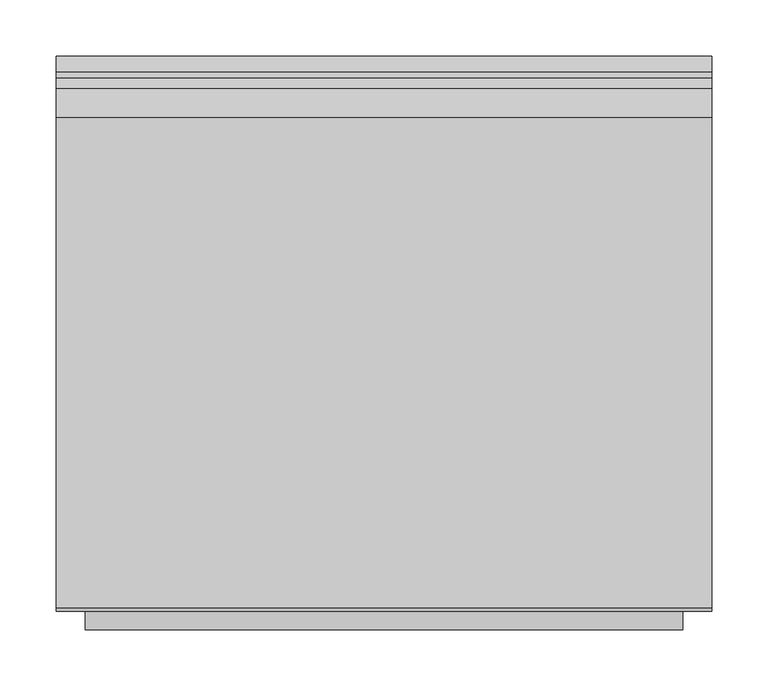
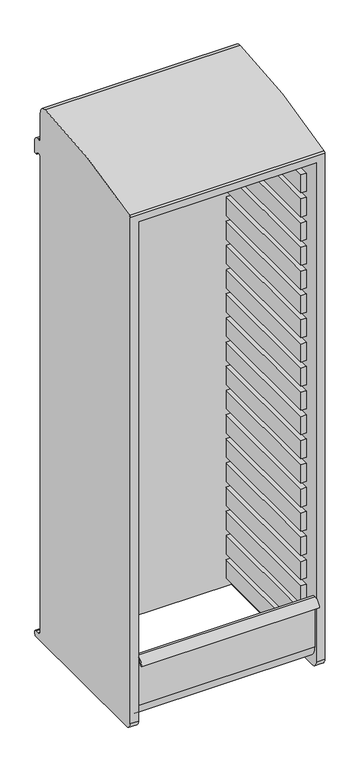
"""IFC4 building model written with IfcOpenShell, lengths in millimetres: furniture geometry."""

from ifc_helpers import new_model, si_unit, point, frame, frame_2d, origin, place, context, project, spatial, polyline, circle_curve, trimmed, segment, composite_curve, outline, extrude, source, transform, mapped, element, save
from ifc_brep_helpers import plane_surface, cylinder_surface, revolved_surface, advanced_brep


def furniture_45599920(model_context):
    return source(origin(), model_context, "Body", "SolidModel", [
        extrude(outline(polyline([(-249.2375, -195.2625), (-265.1125, -195.2625), (-265.1125, 192.0875), (-249.2375, 192.0875), (-249.2375, -195.2625)])), frame((0.0, 0.0, 552.45), z_axis=(0.0, 0.0, 1.0), x_axis=(1.0, 0.0, 0.0)), (0.0, 0.0, 1.0), 57.15),
        extrude(outline(polyline([(265.1125, -195.2625), (249.2375, -195.2625), (249.2375, 192.0875), (265.1125, 192.0875), (265.1125, -195.2625)])), frame((0.0, 0.0, 552.45), z_axis=(0.0, 0.0, 1.0), x_axis=(1.0, 0.0, 0.0)), (0.0, 0.0, 1.0), 57.15),
        extrude(outline(polyline([(-249.2375, -195.2625), (-265.1125, -195.2625), (-265.1125, 192.0875), (-249.2375, 192.0875), (-249.2375, -195.2625)])), frame((0.0, 0.0, 476.25), z_axis=(0.0, 0.0, 1.0), x_axis=(1.0, 0.0, 0.0)), (0.0, 0.0, 1.0), 57.15),
        extrude(outline(polyline([(265.1125, -195.2625), (249.2375, -195.2625), (249.2375, 192.0875), (265.1125, 192.0875), (265.1125, -195.2625)])), frame((0.0, 0.0, 476.25), z_axis=(0.0, 0.0, 1.0), x_axis=(1.0, 0.0, 0.0)), (0.0, 0.0, 1.0), 57.15),
        extrude(outline(polyline([(-249.2375, -195.2625), (-265.1125, -195.2625), (-265.1125, 192.0875), (-249.2375, 192.0875), (-249.2375, -195.2625)])), frame((0.0, 0.0, 400.05), z_axis=(0.0, 0.0, 1.0), x_axis=(1.0, 0.0, 0.0)), (0.0, 0.0, 1.0), 57.15),
        extrude(outline(polyline([(265.1125, -195.2625), (249.2375, -195.2625), (249.2375, 192.0875), (265.1125, 192.0875), (265.1125, -195.2625)])), frame((0.0, 0.0, 400.05), z_axis=(0.0, 0.0, 1.0), x_axis=(1.0, 0.0, 0.0)), (0.0, 0.0, 1.0), 57.15),
        extrude(outline(polyline([(-249.2375, -195.2625), (-265.1125, -195.2625), (-265.1125, 192.0875), (-249.2375, 192.0875), (-249.2375, -195.2625)])), frame((0.0, 0.0, 323.85), z_axis=(0.0, 0.0, 1.0), x_axis=(1.0, 0.0, 0.0)), (0.0, 0.0, 1.0), 57.15),
        extrude(outline(polyline([(265.1125, -195.2625), (249.2375, -195.2625), (249.2375, 192.0875), (265.1125, 192.0875), (265.1125, -195.2625)])), frame((0.0, 0.0, 323.85), z_axis=(0.0, 0.0, 1.0), x_axis=(1.0, 0.0, 0.0)), (0.0, 0.0, 1.0), 57.15),
        extrude(outline(polyline([(-249.2375, -195.2625), (-265.1125, -195.2625), (-265.1125, 192.0875), (-249.2375, 192.0875), (-249.2375, -195.2625)])), frame((0.0, 0.0, 857.25), z_axis=(0.0, 0.0, 1.0), x_axis=(1.0, 0.0, 0.0)), (0.0, 0.0, 1.0), 57.15),
        extrude(outline(polyline([(265.1125, -195.2625), (249.2375, -195.2625), (249.2375, 192.0875), (265.1125, 192.0875), (265.1125, -195.2625)])), frame((0.0, 0.0, 857.25), z_axis=(0.0, 0.0, 1.0), x_axis=(1.0, 0.0, 0.0)), (0.0, 0.0, 1.0), 57.15),
        extrude(outline(polyline([(-249.2375, -195.2625), (-265.1125, -195.2625), (-265.1125, 192.0875), (-249.2375, 192.0875), (-249.2375, -195.2625)])), frame((0.0, 0.0, 781.05), z_axis=(0.0, 0.0, 1.0), x_axis=(1.0, 0.0, 0.0)), (0.0, 0.0, 1.0), 57.15),
        extrude(outline(polyline([(265.1125, -195.2625), (249.2375, -195.2625), (249.2375, 192.0875), (265.1125, 192.0875), (265.1125, -195.2625)])), frame((0.0, 0.0, 781.05), z_axis=(0.0, 0.0, 1.0), x_axis=(1.0, 0.0, 0.0)), (0.0, 0.0, 1.0), 57.15),
        extrude(outline(polyline([(-249.2375, -195.2625), (-265.1125, -195.2625), (-265.1125, 192.0875), (-249.2375, 192.0875), (-249.2375, -195.2625)])), frame((0.0, 0.0, 704.85), z_axis=(0.0, 0.0, 1.0), x_axis=(1.0, 0.0, 0.0)), (0.0, 0.0, 1.0), 57.15),
        extrude(outline(polyline([(265.1125, -195.2625), (249.2375, -195.2625), (249.2375, 192.0875), (265.1125, 192.0875), (265.1125, -195.2625)])), frame((0.0, 0.0, 704.85), z_axis=(0.0, 0.0, 1.0), x_axis=(1.0, 0.0, 0.0)), (0.0, 0.0, 1.0), 57.15),
        extrude(outline(polyline([(-249.2375, -195.2625), (-265.1125, -195.2625), (-265.1125, 192.0875), (-249.2375, 192.0875), (-249.2375, -195.2625)])), frame((0.0, 0.0, 628.65), z_axis=(0.0, 0.0, 1.0), x_axis=(1.0, 0.0, 0.0)), (0.0, 0.0, 1.0), 57.15),
        extrude(outline(polyline([(265.1125, -195.2625), (249.2375, -195.2625), (249.2375, 192.0875), (265.1125, 192.0875), (265.1125, -195.2625)])), frame((0.0, 0.0, 628.65), z_axis=(0.0, 0.0, 1.0), x_axis=(1.0, 0.0, 0.0)), (0.0, 0.0, 1.0), 57.15),
        extrude(outline(polyline([(-249.2375, -195.2625), (-265.1125, -195.2625), (-265.1125, 192.0875), (-249.2375, 192.0875), (-249.2375, -195.2625)])), frame((0.0, 0.0, 1162.05), z_axis=(0.0, 0.0, 1.0), x_axis=(1.0, 0.0, 0.0)), (0.0, 0.0, 1.0), 57.15),
        extrude(outline(polyline([(265.1125, -195.2625), (249.2375, -195.2625), (249.2375, 192.0875), (265.1125, 192.0875), (265.1125, -195.2625)])), frame((0.0, 0.0, 1162.05), z_axis=(0.0, 0.0, 1.0), x_axis=(1.0, 0.0, 0.0)), (0.0, 0.0, 1.0), 57.15),
        extrude(outline(polyline([(-249.2375, -195.2625), (-265.1125, -195.2625), (-265.1125, 192.0875), (-249.2375, 192.0875), (-249.2375, -195.2625)])), frame((0.0, 0.0, 1085.85), z_axis=(0.0, 0.0, 1.0), x_axis=(1.0, 0.0, 0.0)), (0.0, 0.0, 1.0), 57.15),
        extrude(outline(polyline([(265.1125, -195.2625), (249.2375, -195.2625), (249.2375, 192.0875), (265.1125, 192.0875), (265.1125, -195.2625)])), frame((0.0, 0.0, 1085.85), z_axis=(0.0, 0.0, 1.0), x_axis=(1.0, 0.0, 0.0)), (0.0, 0.0, 1.0), 57.15),
        extrude(outline(polyline([(-249.2375, -195.2625), (-265.1125, -195.2625), (-265.1125, 192.0875), (-249.2375, 192.0875), (-249.2375, -195.2625)])), frame((0.0, 0.0, 1009.65), z_axis=(0.0, 0.0, 1.0), x_axis=(1.0, 0.0, 0.0)), (0.0, 0.0, 1.0), 57.15),
        extrude(outline(polyline([(265.1125, -195.2625), (249.2375, -195.2625), (249.2375, 192.0875), (265.1125, 192.0875), (265.1125, -195.2625)])), frame((0.0, 0.0, 1009.65), z_axis=(0.0, 0.0, 1.0), x_axis=(1.0, 0.0, 0.0)), (0.0, 0.0, 1.0), 57.15),
        extrude(outline(polyline([(-249.2375, -195.2625), (-265.1125, -195.2625), (-265.1125, 192.0875), (-249.2375, 192.0875), (-249.2375, -195.2625)])), frame((0.0, 0.0, 933.45), z_axis=(0.0, 0.0, 1.0), x_axis=(1.0, 0.0, 0.0)), (0.0, 0.0, 1.0), 57.15),
        extrude(outline(polyline([(265.1125, -195.2625), (249.2375, -195.2625), (249.2375, 192.0875), (265.1125, 192.0875), (265.1125, -195.2625)])), frame((0.0, 0.0, 933.45), z_axis=(0.0, 0.0, 1.0), x_axis=(1.0, 0.0, 0.0)), (0.0, 0.0, 1.0), 57.15),
        extrude(outline(polyline([(-249.2375, -195.2625), (-265.1125, -195.2625), (-265.1125, 192.0875), (-249.2375, 192.0875), (-249.2375, -195.2625)])), frame((0.0, 0.0, 1466.85), z_axis=(0.0, 0.0, 1.0), x_axis=(1.0, 0.0, 0.0)), (0.0, 0.0, 1.0), 57.15),
        extrude(outline(polyline([(265.1125, -195.2625), (249.2375, -195.2625), (249.2375, 192.0875), (265.1125, 192.0875), (265.1125, -195.2625)])), frame((0.0, 0.0, 1466.85), z_axis=(0.0, 0.0, 1.0), x_axis=(1.0, 0.0, 0.0)), (0.0, 0.0, 1.0), 57.15),
        extrude(outline(polyline([(-249.2375, -195.2625), (-265.1125, -195.2625), (-265.1125, 192.0875), (-249.2375, 192.0875), (-249.2375, -195.2625)])), frame((0.0, 0.0, 1390.65), z_axis=(0.0, 0.0, 1.0), x_axis=(1.0, 0.0, 0.0)), (0.0, 0.0, 1.0), 57.15),
        extrude(outline(polyline([(265.1125, -195.2625), (249.2375, -195.2625), (249.2375, 192.0875), (265.1125, 192.0875), (265.1125, -195.2625)])), frame((0.0, 0.0, 1390.65), z_axis=(0.0, 0.0, 1.0), x_axis=(1.0, 0.0, 0.0)), (0.0, 0.0, 1.0), 57.15),
        extrude(outline(polyline([(-249.2375, -195.2625), (-265.1125, -195.2625), (-265.1125, 192.0875), (-249.2375, 192.0875), (-249.2375, -195.2625)])), frame((0.0, 0.0, 1314.45), z_axis=(0.0, 0.0, 1.0), x_axis=(1.0, 0.0, 0.0)), (0.0, 0.0, 1.0), 57.15),
        extrude(outline(polyline([(265.1125, -195.2625), (249.2375, -195.2625), (249.2375, 192.0875), (265.1125, 192.0875), (265.1125, -195.2625)])), frame((0.0, 0.0, 1314.45), z_axis=(0.0, 0.0, 1.0), x_axis=(1.0, 0.0, 0.0)), (0.0, 0.0, 1.0), 57.15),
        extrude(outline(polyline([(-249.2375, -195.2625), (-265.1125, -195.2625), (-265.1125, 192.0875), (-249.2375, 192.0875), (-249.2375, -195.2625)])), frame((0.0, 0.0, 1238.25), z_axis=(0.0, 0.0, 1.0), x_axis=(1.0, 0.0, 0.0)), (0.0, 0.0, 1.0), 57.15),
        extrude(outline(polyline([(265.1125, -195.2625), (249.2375, -195.2625), (249.2375, 192.0875), (265.1125, 192.0875), (265.1125, -195.2625)])), frame((0.0, 0.0, 1238.25), z_axis=(0.0, 0.0, 1.0), x_axis=(1.0, 0.0, 0.0)), (0.0, 0.0, 1.0), 57.15),
        extrude(outline(polyline([(-249.2375, -195.2625), (-265.1125, -195.2625), (-265.1125, 192.0875), (-249.2375, 192.0875), (-249.2375, -195.2625)])), frame((0.0, 0.0, 1771.65), z_axis=(0.0, 0.0, 1.0), x_axis=(1.0, 0.0, 0.0)), (0.0, 0.0, 1.0), 57.15),
        extrude(outline(polyline([(265.1125, -195.2625), (249.2375, -195.2625), (249.2375, 192.0875), (265.1125, 192.0875), (265.1125, -195.2625)])), frame((0.0, 0.0, 1771.65), z_axis=(0.0, 0.0, 1.0), x_axis=(1.0, 0.0, 0.0)), (0.0, 0.0, 1.0), 57.15),
        extrude(outline(polyline([(-249.2375, -195.2625), (-265.1125, -195.2625), (-265.1125, 192.0875), (-249.2375, 192.0875), (-249.2375, -195.2625)])), frame((0.0, 0.0, 1695.45), z_axis=(0.0, 0.0, 1.0), x_axis=(1.0, 0.0, 0.0)), (0.0, 0.0, 1.0), 57.15),
        extrude(outline(polyline([(265.1125, -195.2625), (249.2375, -195.2625), (249.2375, 192.0875), (265.1125, 192.0875), (265.1125, -195.2625)])), frame((0.0, 0.0, 1695.45), z_axis=(0.0, 0.0, 1.0), x_axis=(1.0, 0.0, 0.0)), (0.0, 0.0, 1.0), 57.15),
        extrude(outline(polyline([(-249.2375, -195.2625), (-265.1125, -195.2625), (-265.1125, 192.0875), (-249.2375, 192.0875), (-249.2375, -195.2625)])), frame((0.0, 0.0, 1619.25), z_axis=(0.0, 0.0, 1.0), x_axis=(1.0, 0.0, 0.0)), (0.0, 0.0, 1.0), 57.15),
        extrude(outline(polyline([(265.1125, -195.2625), (249.2375, -195.2625), (249.2375, 192.0875), (265.1125, 192.0875), (265.1125, -195.2625)])), frame((0.0, 0.0, 1619.25), z_axis=(0.0, 0.0, 1.0), x_axis=(1.0, 0.0, 0.0)), (0.0, 0.0, 1.0), 57.15),
        extrude(outline(polyline([(-249.2375, -195.2625), (-265.1125, -195.2625), (-265.1125, 192.0875), (-249.2375, 192.0875), (-249.2375, -195.2625)])), frame((0.0, 0.0, 1543.05), z_axis=(0.0, 0.0, 1.0), x_axis=(1.0, 0.0, 0.0)), (0.0, 0.0, 1.0), 57.15),
        extrude(outline(polyline([(265.1125, -195.2625), (249.2375, -195.2625), (249.2375, 192.0875), (265.1125, 192.0875), (265.1125, -195.2625)])), frame((0.0, 0.0, 1543.05), z_axis=(0.0, 0.0, 1.0), x_axis=(1.0, 0.0, 0.0)), (0.0, 0.0, 1.0), 57.15),
        advanced_brep(
        [(290.5125, -246.0625, 317.5), (290.5125, -227.0125, 298.45), (290.5125, 239.7125, 298.45), (290.5125, 246.0625, 304.8), (290.5125, 246.0625, 311.15), (290.5125, 239.7125, 317.5), (290.5125, 228.6, 317.5), (290.5125, 217.4875, 328.6125), (290.5125, 217.4875, 1820.4282764), (290.5125, 236.7359375, 1820.4282764), (290.5125, 246.0625, 1820.4282764), (290.5125, 246.0625, 1858.8967496), (290.5125, 232.4695312, 1872.4897183), (290.5125, 227.1117187, 1872.4897183), (290.5125, 217.4875, 1882.1139371), (290.5125, 217.4875, 1962.15), (290.5125, 192.0875, 1987.55), (290.5125, -242.8127937, 1918.698234), (290.5125, -246.0625, 1913.4436651), (265.1125, -246.0625, 317.5), (265.1125, -227.0125, 298.45), (-290.5125, -246.0625, 317.5), (-290.5125, -227.0125, 298.45), (-265.1125, -227.0125, 298.45), (-265.1125, -246.0625, 317.5), (265.1125, 192.0875, 298.45), (-265.1125, 192.0875, 298.45), (-290.5125, 239.7125, 298.45), (-290.5125, 246.0625, 304.8), (-290.5125, 246.0625, 311.15), (-290.5125, 239.7125, 317.5), (-290.5125, 228.6, 317.5), (-290.5125, 217.4875, 328.6125), (-290.5125, 217.4875, 1820.4282764), (-290.5125, -246.0625, 1913.4436651), (-265.1125, -246.0625, 1892.3), (265.1125, -246.0625, 1892.3), (-290.5125, -242.8127937, 1918.698234), (-290.5125, 192.0875, 1987.55), (-290.5125, 217.4875, 1962.15), (-290.5125, 217.4875, 1882.1139371), (-290.5125, 227.1117187, 1872.4897183), (-290.5125, 232.4695312, 1872.4897183), (-290.5125, 246.0625, 1858.8967496), (-290.5125, 246.0625, 1820.4282764), (-290.5125, 236.7359375, 1820.4282764), (265.1125, 192.0875, 1956.3783426), (-265.1125, 192.0875, 1956.3783426)],
        [
            (0, 1, circle_curve(frame((290.5125, -227.0125, 317.5), z_axis=(1.0, 0.0, 0.0), x_axis=(0.0, 1.0, 0.0)), 19.05)),
            (1, 2),
            (2, 3, circle_curve(frame((290.5125, 239.7125, 304.8), z_axis=(1.0, 0.0, 0.0), x_axis=(0.0, 1.0, 0.0)), 6.35)),
            (3, 4),
            (4, 5, circle_curve(frame((290.5125, 239.7125, 311.15), z_axis=(1.0, 0.0, 0.0), x_axis=(0.0, 1.0, 0.0)), 6.35)),
            (5, 6),
            (6, 7, circle_curve(frame((290.5125, 228.6, 328.6125), z_axis=(-1.0, 0.0, 0.0), x_axis=(0.0, 1.0, 0.0)), 11.1125)),
            (7, 8),
            (8, 9, circle_curve(frame((290.5125, 227.1117187, 1820.4282764), z_axis=(-1.0, 0.0, 0.0), x_axis=(0.0, 1.0, 0.0)), 9.6242188)),
            (9, 10),
            (10, 11),
            (11, 12, circle_curve(frame((290.5125, 232.4695312, 1858.8967496), z_axis=(1.0, 0.0, 0.0), x_axis=(0.0, 1.0, 0.0)), 13.5929687)),
            (12, 13),
            (13, 14, circle_curve(frame((290.5125, 227.1117187, 1882.1139371), z_axis=(-1.0, 0.0, 0.0), x_axis=(0.0, 1.0, 0.0)), 9.6242187)),
            (14, 15),
            (15, 16, circle_curve(frame((290.5125, 192.0875, 1962.15), z_axis=(1.0, 0.0, 0.0), x_axis=(0.0, 1.0, 0.0)), 25.4)),
            (16, 17, circle_curve(frame((290.5125, 219.0245932, 409.4588105), z_axis=(1.0, 0.0, 0.0), x_axis=(0.0, 1.0, 0.0)), 1578.321073)),
            (17, 18, circle_curve(frame((290.5125, -240.1894945, 1913.4436651), z_axis=(1.0, 0.0, 0.0), x_axis=(0.0, 1.0, 0.0)), 5.8730055)),
            (18, 0),
            (0, 19),
            (19, 20, circle_curve(frame((265.1125, -227.0125, 317.5), z_axis=(1.0, 0.0, 0.0), x_axis=(0.0, 1.0, 0.0)), 19.05)),
            (20, 1),
            (21, 22, circle_curve(frame((-290.5125, -227.0125, 317.5), z_axis=(1.0, 0.0, 0.0), x_axis=(0.0, 1.0, 0.0)), 19.05)),
            (22, 23),
            (23, 24, circle_curve(frame((-265.1125, -227.0125, 317.5), z_axis=(-1.0, 0.0, 0.0), x_axis=(0.0, 1.0, 0.0)), 19.05)),
            (24, 21),
            (20, 25),
            (25, 26),
            (26, 23),
            (22, 27),
            (27, 2),
            (27, 28, circle_curve(frame((-290.5125, 239.7125, 304.8), z_axis=(1.0, 0.0, 0.0), x_axis=(0.0, 1.0, 0.0)), 6.35)),
            (28, 3),
            (28, 29),
            (29, 4),
            (29, 30, circle_curve(frame((-290.5125, 239.7125, 311.15), z_axis=(1.0, 0.0, 0.0), x_axis=(0.0, 1.0, 0.0)), 6.35)),
            (30, 5),
            (30, 31),
            (31, 6),
            (31, 32, circle_curve(frame((-290.5125, 228.6, 328.6125), z_axis=(-1.0, 0.0, 0.0), x_axis=(0.0, 1.0, 0.0)), 11.1125)),
            (32, 7),
            (32, 33),
            (33, 8),
            (18, 34),
            (34, 21),
            (24, 35),
            (35, 36),
            (36, 19),
            (34, 37, circle_curve(frame((-290.5125, -240.1894945, 1913.4436651), z_axis=(-1.0, 0.0, 0.0), x_axis=(0.0, 1.0, 0.0)), 5.8730055)),
            (37, 38, circle_curve(frame((-290.5125, 219.0245932, 409.4588105), z_axis=(-1.0, 0.0, 0.0), x_axis=(0.0, 1.0, 0.0)), 1578.321073)),
            (38, 39, circle_curve(frame((-290.5125, 192.0875, 1962.15), z_axis=(-1.0, 0.0, 0.0), x_axis=(0.0, 1.0, 0.0)), 25.4)),
            (39, 40),
            (40, 41, circle_curve(frame((-290.5125, 227.1117187, 1882.1139371), z_axis=(1.0, 0.0, 0.0), x_axis=(0.0, 1.0, 0.0)), 9.6242188)),
            (41, 42),
            (42, 43, circle_curve(frame((-290.5125, 232.4695312, 1858.8967496), z_axis=(-1.0, 0.0, 0.0), x_axis=(0.0, 1.0, 0.0)), 13.5929688)),
            (43, 44),
            (44, 45),
            (45, 33, circle_curve(frame((-290.5125, 227.1117187, 1820.4282764), z_axis=(1.0, 0.0, 0.0), x_axis=(0.0, 1.0, 0.0)), 9.6242188)),
            (36, 46),
            (46, 25),
            (26, 47),
            (47, 35),
            (46, 47),
            (45, 9),
            (44, 10),
            (43, 11),
            (42, 12),
            (41, 13),
            (40, 14),
            (39, 15),
            (38, 16),
            (37, 17),
        ],
        [
            plane_surface(frame((290.5125, -207.9625, 317.5), z_axis=(1.0, 0.0, 0.0), x_axis=(0.0, 0.0, 1.0))),
            cylinder_surface(frame((-290.5125, -227.0125, 317.5), z_axis=(1.0, 0.0, 0.0), x_axis=(0.0, 1.0, 0.0)), 19.05),
            plane_surface(frame((290.5125, -227.0125, 298.45), z_axis=(0.0, 0.0, -1.0), x_axis=(-1.0, 0.0, 0.0))),
            cylinder_surface(frame((-290.5125, 239.7125, 304.8), z_axis=(1.0, 0.0, 0.0), x_axis=(0.0, 1.0, 0.0)), 6.35),
            plane_surface(frame((290.5125, 246.0625, 304.8), z_axis=(0.0, 1.0, 0.0), x_axis=(-1.0, 0.0, 0.0))),
            cylinder_surface(frame((-290.5125, 239.7125, 311.15), z_axis=(1.0, 0.0, 0.0), x_axis=(0.0, 1.0, 0.0)), 6.35),
            plane_surface(frame((290.5125, 239.7125, 317.5), z_axis=(0.0, 0.0, 1.0), x_axis=(-1.0, 0.0, 0.0))),
            revolved_surface(polyline([(-290.5125, 239.7125, 328.6125), (290.5125, 239.7125, 328.6125)]), (-290.5125, 228.6, 328.6125), (-1.0, 0.0, 0.0)),
            plane_surface(frame((290.5125, 217.4875, 328.6125), z_axis=(0.0, 1.0, 0.0), x_axis=(-1.0, 0.0, 0.0))),
            plane_surface(frame((290.5125, -246.0625, 1913.4436651), z_axis=(0.0, -1.0, -1.1655566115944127e-12), x_axis=(-1.0, 0.0, 0.0))),
            plane_surface(frame((-290.5125, -207.9625, 317.5), z_axis=(-1.0, 0.0, 0.0), x_axis=(0.0, 0.0, -1.0))),
            plane_surface(frame((265.1125, 192.0875, 298.45), z_axis=(-1.0, 0.0, 0.0), x_axis=(0.0, 0.0, 1.0))),
            plane_surface(frame((-265.1125, 192.0875, 298.45), z_axis=(1.0, 0.0, 0.0), x_axis=(0.0, 0.0, -1.0))),
            plane_surface(frame((265.1125, 192.0875, 298.45), z_axis=(0.0, -1.0, 0.0), x_axis=(-1.0, 0.0, 0.0))),
            revolved_surface(polyline([(-290.5125, 236.7359375, 1820.4282764), (290.5125, 236.7359375, 1820.4282764)]), (-290.5125, 227.1117187, 1820.4282764), (-1.0, 0.0, 0.0)),
            plane_surface(frame((290.5125, 236.7359375, 1820.4282764), z_axis=(0.0, 0.0, -1.0), x_axis=(-1.0, 0.0, 0.0))),
            plane_surface(frame((290.5125, 246.0625, 1820.4282764), z_axis=(0.0, 1.0, 0.0), x_axis=(-1.0, 0.0, 0.0))),
            cylinder_surface(frame((-290.5125, 232.4695312, 1858.8967496), z_axis=(1.0, 0.0, 0.0), x_axis=(0.0, 1.0, 0.0)), 13.5929687),
            plane_surface(frame((290.5125, 232.4695312, 1872.4897183), z_axis=(0.0, 0.0, 1.0), x_axis=(-1.0, 0.0, 0.0))),
            revolved_surface(polyline([(-290.5125, 236.7359375, 1882.1139371), (290.5125, 236.7359375, 1882.1139371)]), (-290.5125, 227.1117187, 1882.1139371), (-1.0, 0.0, 0.0)),
            plane_surface(frame((290.5125, 217.4875, 1882.1139371), z_axis=(0.0, 1.0, 0.0), x_axis=(-1.0, 0.0, 0.0))),
            cylinder_surface(frame((-290.5125, 192.0875, 1962.15), z_axis=(1.0, 0.0, 0.0), x_axis=(0.0, 1.0, 0.0)), 25.4),
            cylinder_surface(frame((-290.5125, 219.0245932, 409.4588105), z_axis=(1.0, 0.0, 0.0), x_axis=(0.0, 1.0, 0.0)), 1578.321073),
            cylinder_surface(frame((-290.5125, -240.1894945, 1913.4436651), z_axis=(1.0, 0.0, 0.0), x_axis=(0.0, 1.0, 0.0)), 5.8730055),
            plane_surface(frame((265.1125, 192.0875, 1956.3783426), z_axis=(0.0, 0.14470815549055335, -0.9894743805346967), x_axis=(-1.0, 0.0, 0.0))),
        ],
        [
            (0, [[1, 2, 3, 4, 5, 6, 7, 8, 9, 10, 11, 12, 13, 14, 15, 16, 17, 18, 19]]),
            (1, [[-1, 20, 21, 22]]),
            (1, [[23, 24, 25, 26]]),
            (2, [[-2, -22, 27, 28, 29, -24, 30, 31]]),
            (3, [[-3, -31, 32, 33]]),
            (4, [[-4, -33, 34, 35]]),
            (5, [[-5, -35, 36, 37]]),
            (6, [[-6, -37, 38, 39]]),
            (7, [[-7, -39, 40, 41]]),
            (8, [[-8, -41, 42, 43]]),
            (9, [[-19, 44, 45, -26, 46, 47, 48, -20]]),
            (10, [[-45, 49, 50, 51, 52, 53, 54, 55, 56, 57, 58, -42, -40, -38, -36, -34, -32, -30, -23]]),
            (11, [[59, 60, -27, -21, -48]]),
            (12, [[61, 62, -46, -25, -29]]),
            (13, [[-60, 63, -61, -28]]),
            (14, [[-9, -43, -58, 64]]),
            (15, [[-10, -64, -57, 65]]),
            (16, [[-11, -65, -56, 66]]),
            (17, [[-12, -66, -55, 67]]),
            (18, [[-13, -67, -54, 68]]),
            (19, [[-14, -68, -53, 69]]),
            (20, [[-15, -69, -52, 70]]),
            (21, [[-16, -70, -51, 71]]),
            (22, [[-17, -71, -50, 72]]),
            (23, [[-18, -72, -49, -44]]),
            (24, [[-59, -47, -62, -63]]),
        ],
    ),
        extrude(outline(composite_curve([segment(trimmed(circle_curve(frame_2d((-195.2625, 361.95)), 38.1), [point((-233.3625, 361.95))], [point((-195.2625, 323.85))], True, "CARTESIAN"), True, "CONTINUOUS"), segment(polyline([(-195.2625, 323.85), (0.0, 323.85), (0.0, 317.5), (-195.2625, 317.5)]), True, "CONTINUOUS"), segment(trimmed(circle_curve(frame_2d((-195.2625, 361.95)), 44.45), [point((-195.2625, 317.5))], [point((-239.7125, 361.95))], False, "CARTESIAN"), True, "CONTINUOUS"), segment(polyline([(-239.7125, 361.95), (-239.7125, 514.35)]), True, "CONTINUOUS"), segment(trimmed(circle_curve(frame_2d((-239.7125, 498.475)), 15.875), [point((-239.7125, 514.35))], [point((-255.5875, 498.475))], True, "CARTESIAN"), True, "CONTINUOUS"), segment(polyline([(-255.5875, 498.475), (-261.9375, 498.475)]), True, "CONTINUOUS"), segment(trimmed(circle_curve(frame_2d((-239.7125, 498.475)), 22.225), [point((-261.9375, 498.475))], [point((-239.7125, 520.7))], False, "CARTESIAN"), True, "CONTINUOUS"), segment(polyline([(-239.7125, 520.7), (-233.3625, 520.7), (-233.3625, 361.95)]), True, "CONTINUOUS")], self_intersect=False)), frame((-265.1125, 0.0, 0.0), z_axis=(1.0, 0.0, 0.0), x_axis=(0.0, 1.0, 0.0)), (0.0, 0.0, 1.0), 530.225),
    ])


if __name__ == "__main__":
    model = new_model("IFC4")
    model_context = context("Model", 3, world=origin())
    ifc_project = project(units=[si_unit("LENGTHUNIT", "METRE", prefix="MILLI")], contexts=[model_context])
    site = spatial("IfcSite", under=ifc_project)
    building = spatial("IfcBuilding", under=site)
    placement = place(None, origin())
    furniture_shape = furniture_45599920(model_context)
    element("IfcFurniture", 1, ObjectType="HermanMiller_CoStruc_CO561_LockerWithTambourDoor : 66\"H x 20\"D x 22\"W", at=placement, inside=building, context=model_context, shape_type="MappedRepresentation", body=[
        mapped(furniture_shape, transform((0.0, 0.0, 0.0), x_axis=(1.0, 0.0, 0.0), y_axis=(0.0, 1.0, 0.0), z_axis=(0.0, 0.0, 1.0))),
    ])
    save(model, "model.ifc")
